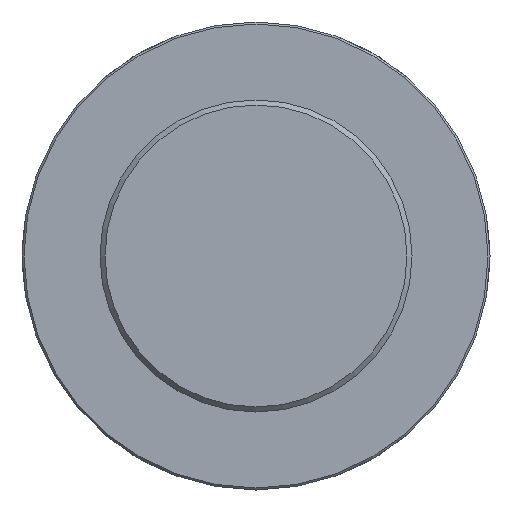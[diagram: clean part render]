
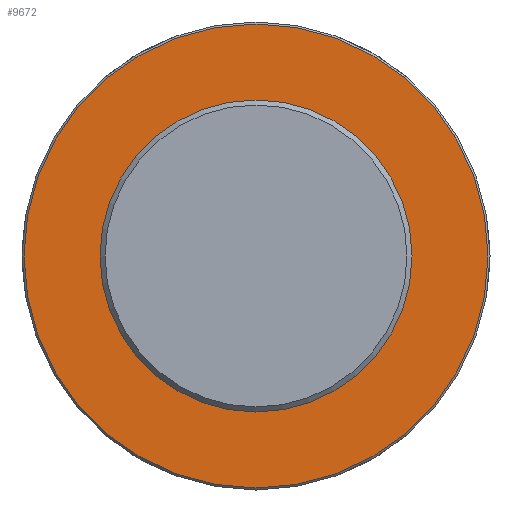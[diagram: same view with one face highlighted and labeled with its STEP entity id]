
A CAD part, front view. The second image highlights one B-rep face of the part: STEP entity #9672.
In plain terms, the highlighted planar face has unit normal (0, -1, 0) as drawn and (0, 1, 0) by its records, which use the part's own axes.
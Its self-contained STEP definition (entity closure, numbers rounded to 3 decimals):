
#73=CIRCLE('',#10026,230.5);
#391=PLANE('',#10029);
#906=FACE_OUTER_BOUND('',#1492,.T.);
#1492=EDGE_LOOP('',(#8871));
#4672=VERTEX_POINT('',#17708);
#6075=EDGE_CURVE('',#4672,#4672,#73,.T.);
#8871=ORIENTED_EDGE('',*,*,#6075,.F.);
#9672=ADVANCED_FACE('',(#906),#391,.T.);
#10026=AXIS2_PLACEMENT_3D('',#17709,#11447,#11448);
#10029=AXIS2_PLACEMENT_3D('',#17947,#11453,#11454);
#11447=DIRECTION('center_axis',(0.,-1.,0.));
#11448=DIRECTION('ref_axis',(1.,0.,0.));
#11453=DIRECTION('center_axis',(0.,1.,0.));
#11454=DIRECTION('ref_axis',(0.,0.,1.));
#17708=CARTESIAN_POINT('',(-230.5,210.,0.));
#17709=CARTESIAN_POINT('Origin',(0.,210.,0.));
#17947=CARTESIAN_POINT('Origin',(0.,210.,0.));
